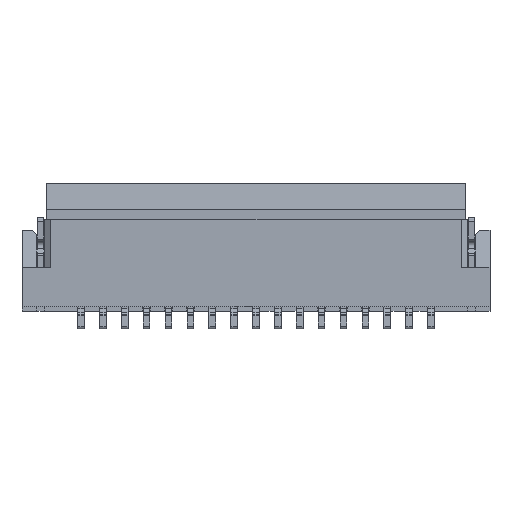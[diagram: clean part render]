
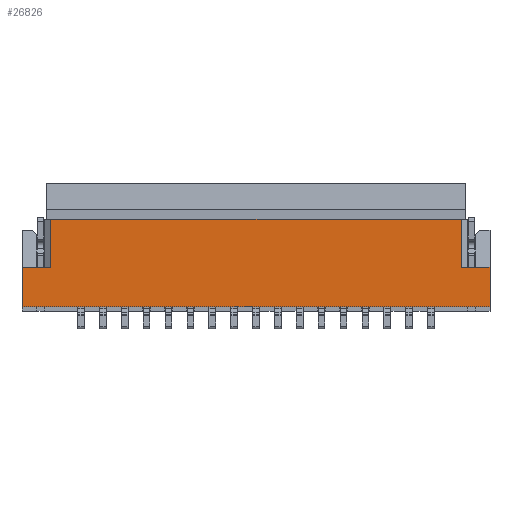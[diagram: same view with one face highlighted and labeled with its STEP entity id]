
A CAD part, front view. The second image highlights one B-rep face of the part: STEP entity #26826.
In plain terms, the highlighted planar face has unit normal (0, -1, 0).
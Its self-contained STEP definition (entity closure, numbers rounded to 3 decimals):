
#1=DIRECTION('',(0.,0.,-1.));
#2=VECTOR('',#1,0.9);
#3=CARTESIAN_POINT('',(-7.85,-0.575,-0.05));
#4=LINE('',#3,#2);
#5=DIRECTION('',(-1.,0.,0.));
#6=VECTOR('',#5,0.653);
#7=CARTESIAN_POINT('',(-7.197,-0.575,-0.05));
#8=LINE('',#7,#6);
#9=DIRECTION('',(0.,0.,-1.));
#10=VECTOR('',#9,1.1);
#11=CARTESIAN_POINT('',(-7.197,-0.575,1.05));
#12=LINE('',#11,#10);
#13=DIRECTION('',(0.,0.,-1.));
#14=VECTOR('',#13,1.1);
#15=CARTESIAN_POINT('',(2.197,-0.575,1.05));
#16=LINE('',#15,#14);
#17=DIRECTION('',(1.,0.,0.));
#18=VECTOR('',#17,0.653);
#19=CARTESIAN_POINT('',(2.197,-0.575,-0.05));
#20=LINE('',#19,#18);
#21=DIRECTION('',(0.,0.,-1.));
#22=VECTOR('',#21,0.9);
#23=CARTESIAN_POINT('',(2.85,-0.575,-0.05));
#24=LINE('',#23,#22);
#125=DIRECTION('',(1.,0.,0.));
#126=VECTOR('',#125,10.7);
#127=CARTESIAN_POINT('',(-7.85,-0.575,-0.95));
#128=LINE('',#127,#126);
#4038=DIRECTION('',(-1.,0.,0.));
#4039=VECTOR('',#4038,9.394);
#4040=CARTESIAN_POINT('',(2.197,-0.575,1.05));
#4041=LINE('',#4040,#4039);
#20507=CARTESIAN_POINT('',(2.197,-0.575,1.05));
#20508=CARTESIAN_POINT('',(2.197,-0.575,-0.05));
#20509=VERTEX_POINT('',#20507);
#20510=VERTEX_POINT('',#20508);
#20511=CARTESIAN_POINT('',(2.85,-0.575,-0.05));
#20512=VERTEX_POINT('',#20511);
#20513=CARTESIAN_POINT('',(2.85,-0.575,-0.95));
#20514=VERTEX_POINT('',#20513);
#23667=CARTESIAN_POINT('',(-7.197,-0.575,1.05));
#23668=CARTESIAN_POINT('',(-7.197,-0.575,-0.05));
#23669=VERTEX_POINT('',#23667);
#23670=VERTEX_POINT('',#23668);
#23671=CARTESIAN_POINT('',(-7.85,-0.575,-0.05));
#23672=VERTEX_POINT('',#23671);
#23673=CARTESIAN_POINT('',(-7.85,-0.575,-0.95));
#23674=VERTEX_POINT('',#23673);
#26803=CARTESIAN_POINT('',(0.,-0.575,0.05));
#26804=DIRECTION('',(0.,1.,0.));
#26805=DIRECTION('',(1.,0.,0.));
#26806=AXIS2_PLACEMENT_3D('',#26803,#26804,#26805);
#26807=PLANE('',#26806);
#26809=ORIENTED_EDGE('',*,*,#26808,.F.);
#26811=ORIENTED_EDGE('',*,*,#26810,.F.);
#26813=ORIENTED_EDGE('',*,*,#26812,.F.);
#26815=ORIENTED_EDGE('',*,*,#26814,.F.);
#26817=ORIENTED_EDGE('',*,*,#26816,.F.);
#26819=ORIENTED_EDGE('',*,*,#26818,.T.);
#26821=ORIENTED_EDGE('',*,*,#26820,.T.);
#26823=ORIENTED_EDGE('',*,*,#26822,.T.);
#26824=EDGE_LOOP('',(#26809,#26811,#26813,#26815,#26817,#26819,#26821,#26823));
#26825=FACE_OUTER_BOUND('',#26824,.F.);
#26808=EDGE_CURVE('',#23674,#20514,#128,.T.);
#26810=EDGE_CURVE('',#23672,#23674,#4,.T.);
#26812=EDGE_CURVE('',#23670,#23672,#8,.T.);
#26814=EDGE_CURVE('',#23669,#23670,#12,.T.);
#26816=EDGE_CURVE('',#20509,#23669,#4041,.T.);
#26818=EDGE_CURVE('',#20509,#20510,#16,.T.);
#26820=EDGE_CURVE('',#20510,#20512,#20,.T.);
#26822=EDGE_CURVE('',#20512,#20514,#24,.T.);
#26826=ADVANCED_FACE('',(#26825),#26807,.F.);
